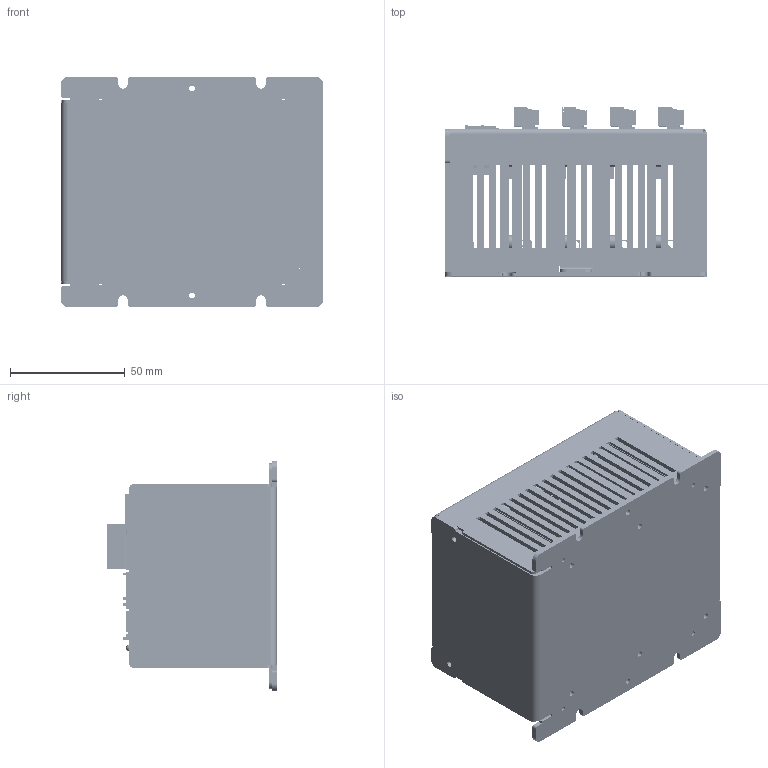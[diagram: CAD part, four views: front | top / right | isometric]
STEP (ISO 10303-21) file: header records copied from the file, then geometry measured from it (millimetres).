
FILE_DESCRIPTION (( 'STEP AP214' ), '1' );
FILE_NAME ('STD404EC_3D_250605.STEP', '2025-06-05T16:52:26', ( '' ), ( '' ), 'SwSTEP 2.0', 'SolidWorks 2021', '' );
FILE_SCHEMA (( 'AUTOMOTIVE_DESIGN' ));
Length unit declared in the file: millimetre
Products named in the file (33): 2x4pinG90_2_54mm.STEP.step; S10B-PHDSS.step; 塑膠柱-H4; STD404EC-C2; 266637744.step; pin.STEP.step; pin_2.STEP.step; Sphere.step; ID543-ECN4-COM -1; J1.step; J9.step; Extruded.step; Board.step; STD404EC_3D_250605; 2x2pinG90_2_54mm-1.step; STD402EC-矽膠片; 266637864.step; S14B-PHDSS.step; 15EDGK-3.81-05P-14-00A(H).step; 15EDGRC-3.81-05P-14-00A(H).step; Extruded-10.step; IDA44-ECFA -DRV_3D.step; LD1.step; J7.step; STD404EC-C1; J4.step; ID543-N4-COM - 1.step; 475444928.step; STD402EC-C3; IDA44-ECFA -DRV_3D; 475444544.step; Cylinder-9.step; J8.step
Assembly tree (64 placements, depth 7):
  STD404EC_3D_250605
    STD404EC-C1
    ID543-N4-COM - 1.step
    ID543-ECN4-COM -1
    STD404EC-C2
    IDA44-ECFA -DRV_3D  x4
      IDA44-ECFA -DRV_3D.step
        J1.step
          S14B-PHDSS.step
        J8.step
          S10B-PHDSS.step
        LD1.step
          475444928.step
            Extruded.step
          266637744.step
            Cylinder-9.step
          266637864.step
            Sphere.step
        J4.step
          2x2pinG90_2_54mm-1.step  x3
            2x4pinG90_2_54mm.STEP.step
              pin.STEP.step  x2
              pin_2.STEP.step  x2
          475444544.step  x3
            Extruded-10.step
        J7.step
          2x2pinG90_2_54mm-1.step
            2x4pinG90_2_54mm.STEP.step
              pin.STEP.step  x2
              pin_2.STEP.step  x2
          475444544.step
            Extruded-10.step
        J9.step
          15EDGRC-3.81-05P-14-00A(H).step
          15EDGK-3.81-05P-14-00A(H).step
        Board.step
    STD402EC-C3  x4
    塑膠柱-H4  x16
    STD402EC-矽膠片  x4
Bounding box: 114 x 73.68 x 100 mm (x, y, z)
Volume: 167632.9 mm3; surface area: 240963.7 mm2
Topology: 977 solids, 1426 shells, 20545 faces, 53180 edges, 35773 vertices
Faces by surface type: plane 17170, cylinder 2481, bspline 781, cone 102, torus 6, sphere 5
Entity records: 483508 total; most frequent: CARTESIAN_POINT 153692, ORIENTED_EDGE 65506, DIRECTION 58224, EDGE_CURVE 33831, VECTOR 28742, LINE 28742, VERTEX_POINT 23074, AXIS2_PLACEMENT_3D 14741
